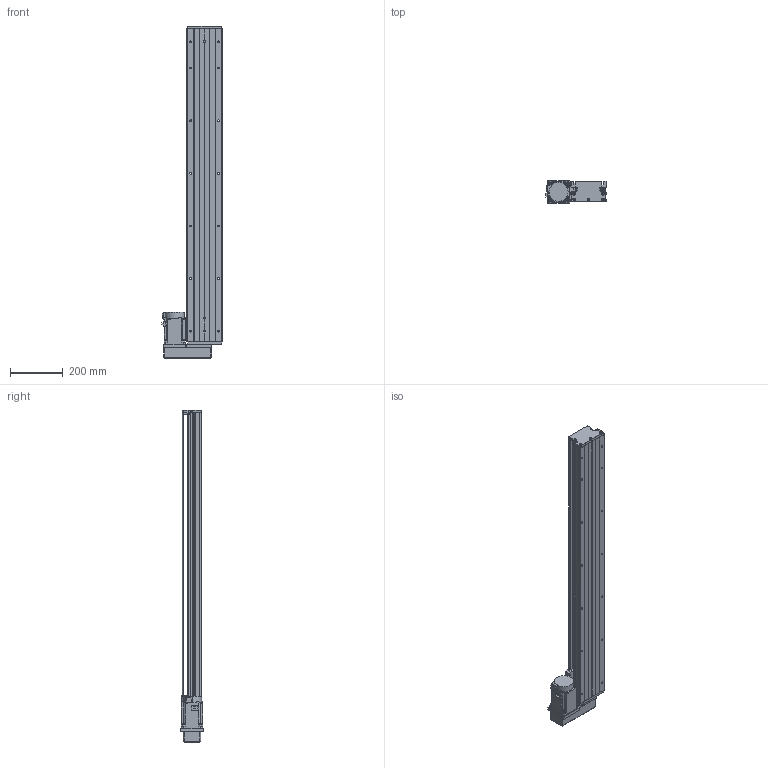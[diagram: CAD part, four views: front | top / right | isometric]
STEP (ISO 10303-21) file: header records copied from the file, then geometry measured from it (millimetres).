
FILE_DESCRIPTION (( 'STEP AP203' ), '1' );
FILE_NAME ('KTH130-1050-BL-M75-C4.step', '2023-06-30T04:24:17', ( '微软用户' ), ( '微软中国' ), 'SwSTEP 2.0', 'SolidWorks 2020', '' );
FILE_SCHEMA (( 'CONFIG_CONTROL_DESIGN' ));
Length unit declared in the file: millimetre
Products named in the file (18): GTH14-001_1050; CTHA60-017; GBT 70.1-M3℅5; KTH130-1050-BL-M75-C4; KTH130-002_KTH130-002; EE_SX911P_R; GBT77-2000 M3×3; KTH130-004; す晦芛蹟隊 M3℅5; KTH130-005; GBT 70.3-M3℅8; GB1155-6X6; hg-kn73j_-s100; GBT70.1 M5℅16; CTHA86-015-3_CTHA86-015-4; GBT 70.2-M3¡Á5_M3¡Á6; CTHA60-016; CTHA86-035
Assembly tree (49 placements, depth 2):
  KTH130-1050-BL-M75-C4
    GTH14-001_1050
    KTH130-002_KTH130-002
    KTH130-004
    KTH130-005
    GB1155-6X6  x2
    GBT70.1 M5℅16  x10
    GBT 70.2-M3¡Á5_M3¡Á6  x4
    CTHA60-017  x3
    EE_SX911P_R  x3
    CTHA60-016  x2
    GBT 70.1-M3℅5  x6
    GBT77-2000 M3×3  x6
    す晦芛蹟隊 M3℅5  x2
    GBT 70.3-M3℅8  x4
    hg-kn73j_-s100
    CTHA86-015-3_CTHA86-015-4
    CTHA86-035
Bounding box: 230.3 x 87 x 1262 mm (x, y, z)
Volume: 7766360 mm3; surface area: 1113887 mm2
Topology: 52 solids, 52 shells, 2212 faces, 5364 edges, 3359 vertices
Faces by surface type: plane 1212, cylinder 646, cone 238, torus 100, sphere 16
Entity records: 40561 total; most frequent: CARTESIAN_POINT 6822, DIRECTION 6697, ORIENTED_EDGE 6232, EDGE_CURVE 3116, AXIS2_PLACEMENT_3D 2352, VERTEX_POINT 1993, LINE 1993, VECTOR 1993
